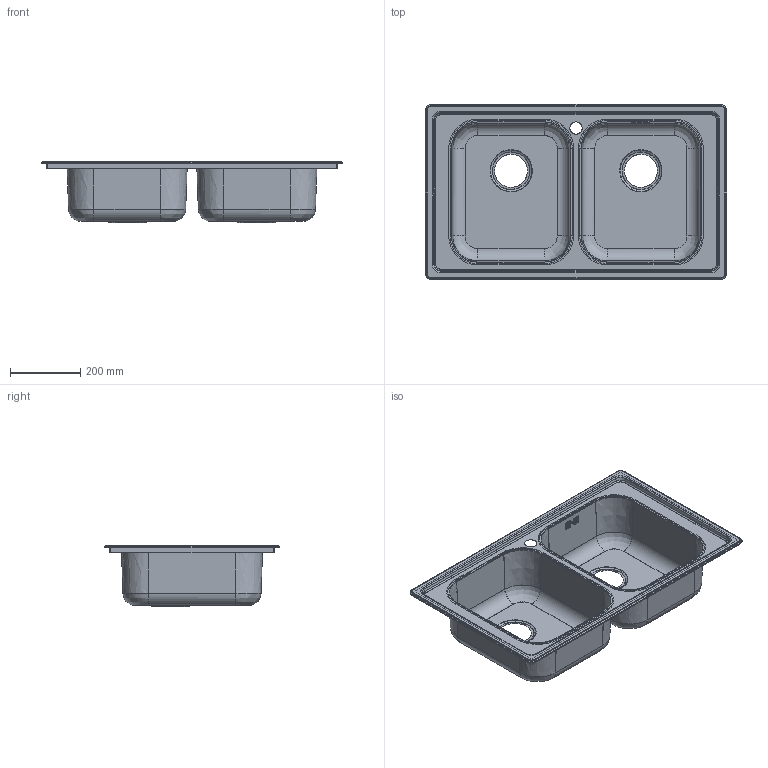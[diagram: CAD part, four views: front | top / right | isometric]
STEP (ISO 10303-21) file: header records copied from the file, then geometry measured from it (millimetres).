
FILE_DESCRIPTION(('CATIA V5 STEP Exchange'),'2;1');
FILE_NAME('\\sr02\Apell\Disegni\DISEGNI\LAVELLI\Apell\SemifiloFlangiato\AssiemiSemifiloFlangiato\SerieMelodia\STP\MLE862IBC.stp','2016-07-15T07:29:38+00:00',('none'),('none'),'CATIA Version 5-6 Release 2014','CATIA V5 STEP AP203','none');
FILE_SCHEMA(('CONFIG_CONTROL_DESIGN'));
Length unit declared in the file: millimetre
Products named in the file (1): Lavello
Assembly tree (3 placements, depth 2):
  Lavello
    #57
    #5496
    #16367
Bounding box: 860 x 500 x 174.6 mm (x, y, z)
Volume: 558461.6 mm3; surface area: 1843663.2 mm2
Topology: 4 solids, 4 shells, 434 faces, 1014 edges, 596 vertices
Faces by surface type: plane 156, cylinder 142, bspline 72, torus 40, cone 24
Entity records: 25025 total; most frequent: CARTESIAN_POINT 15934, ORIENTED_EDGE 2028, DIRECTION 1460, EDGE_CURVE 1006, AXIS2_PLACEMENT_3D 607, VERTEX_POINT 596, VECTOR 517, LINE 517
